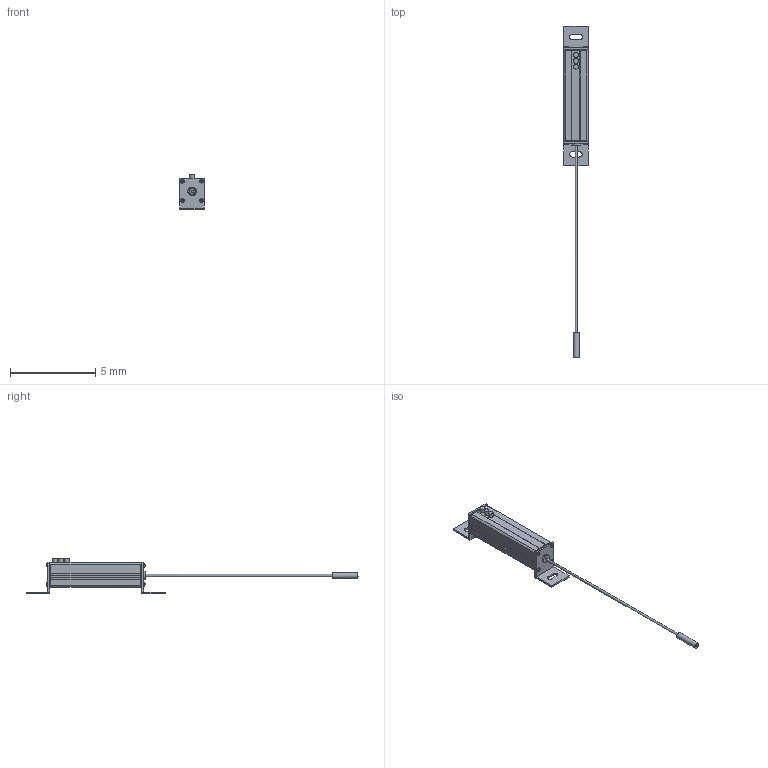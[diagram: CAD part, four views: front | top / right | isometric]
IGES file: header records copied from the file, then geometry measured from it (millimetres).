
Start section:  Autodesk DirectConnect version 7.0.27.0 ---- IGES version 5.3
Global section: file name: C:\ACADFILES\SS_PYLONS\CUSTOMER_FILES\SS-04-PYLON_3D_L.iges; native system: Autodesk DirectConnect 7.0.27.0; preprocessor: 7.0.27.0; author: ENGINEERMAIN; organization: Unknown; date: 20150810.123831; units: millimetre
Bounding box: 1.46 x 19.52 x 2.11 mm (x, y, z)
Surface area: 112.9 mm2 (no closed solid volume)
Topology: 0 solids, 0 shells, 475 faces, 2604 edges, 2623 vertices
Faces by surface type: bspline 475
